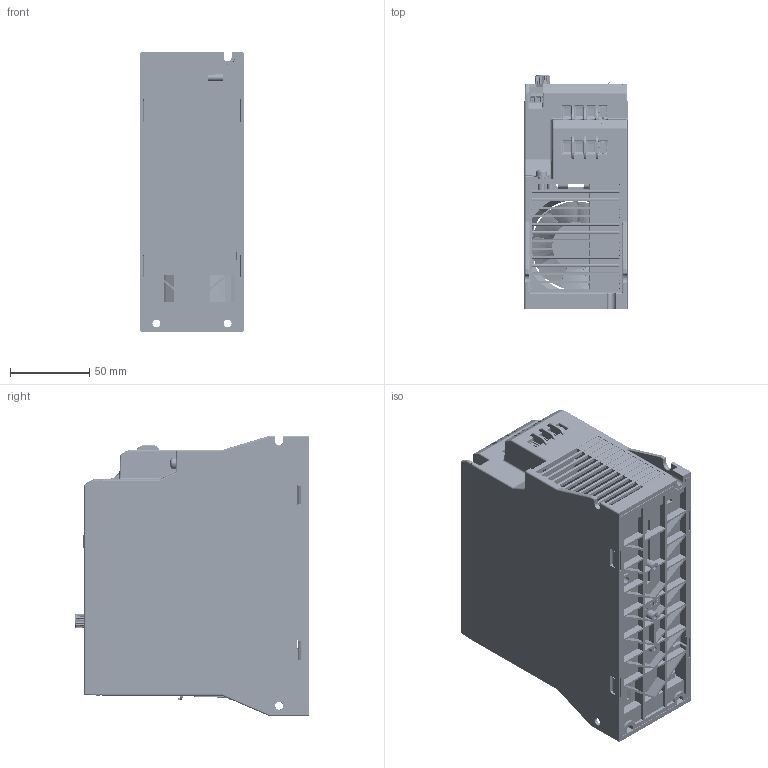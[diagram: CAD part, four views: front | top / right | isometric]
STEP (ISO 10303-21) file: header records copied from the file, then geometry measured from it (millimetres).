
FILE_DESCRIPTION(/* description */ (''),/* implementation_level */ '2;1');
FILE_NAME(/* name */ 'C:\Users\U390257\OneDrive - Danfoss\Documents\Работа\Текущие задачи\2022.04.26 Veichi 3D\Готовые модели\ac10-t3-r75_2r2-3d\ac10-t3-r75_2r2-3d.stp',/* time_stamp */ '2022-04-27T14:37:02+03:00',/* author */ ('U390257'),/* organization */ (''),/* preprocessor_version */ 'ST-DEVELOPER v18.1',/* originating_system */ 'Autodesk Inventor 2020',/* authorisation */ '');
FILE_SCHEMA (('AUTOMOTIVE_DESIGN { 1 0 10303 214 3 1 1 }'));
Products named in the file (1): ac10-t3-r75_2r2-3d
Bounding box: 65 x 147.85 x 177 mm (x, y, z)
Volume: 256318.8 mm3; surface area: 252714.5 mm2
Topology: 71 solids, 79 shells, 11357 faces, 30603 edges, 19948 vertices
Faces by surface type: plane 6899, bspline 2297, cylinder 1479, cone 433, torus 193, sphere 56
Full cylindrical faces by diameter (mm): 0.2 x15, 0.3 x8, 0.5 x30, 0.508 x10, 0.65 x1, 0.7 x2, 0.75 x11, 0.8 x11, 0.9 x16, 1.1 x1, 1.2 x4, 1.25 x2, 1.3 x6, 1.4 x1, 1.5 x2, 1.64 x132, 1.7 x25, 2 x3, 2.1 x13, 2.5 x3, 2.8 x15, 2.9 x12, 3 x12, 3.218 x6, 3.5 x3, 3.8 x3, 4 x3, 4.2 x1, 4.4 x8, 4.7 x8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
Entity records: 502519 total; most frequent: CARTESIAN_POINT 218679, ORIENTED_EDGE 61182, DIRECTION 51347, EDGE_CURVE 30597, LINE 20603, VECTOR 20603, VERTEX_POINT 19946, AXIS2_PLACEMENT_3D 15372
